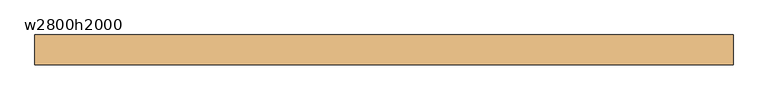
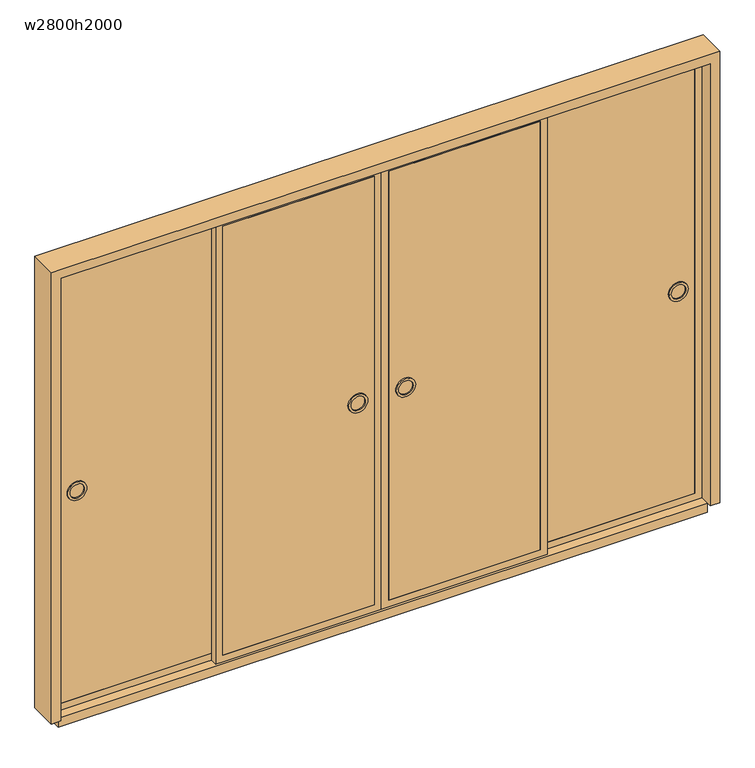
"""IFC4 building model written with IfcOpenShell, lengths in millimetres: door geometry, 引違い 4 枚 2 溝_襖 : w2800h2000."""

from ifc_helpers import new_model, si_unit, point, frame, frame_2d, origin, place, context, project, spatial, polyline, circle_curve, trimmed, segment, composite_curve, outline, extrude, source, transform, mapped, element, save
from ifc_brep_helpers import plane_surface, cylinder_surface, revolved_surface, advanced_brep


def w2800h2000_670b855b(model_context):
    return source(origin(), model_context, "Body", "SolidModel", [
        advanced_brep(
        [(54.464496, -35.0, 950.0), (134.464496, -35.0, 950.0), (124.464496, -35.0, 950.0), (64.464496, -35.0, 950.0), (54.464496, 5.0, 950.0), (134.464496, 5.0, 950.0), (64.464496, 5.0, 950.0), (124.464496, 5.0, 950.0), (124.464496, -30.0, 950.0), (64.464496, -30.0, 950.0), (124.464496, 0.0, 950.0), (64.464496, 0.0, 950.0)],
        [
            (0, 1, circle_curve(frame((94.464496, -35.0, 950.0), z_axis=(0.0, -1.0, 0.0), x_axis=(1.0, 0.0, 0.0)), 40.0)),
            (1, 0, circle_curve(frame((94.464496, -35.0, 950.0), z_axis=(0.0, -1.0, 0.0), x_axis=(1.0, 0.0, 0.0)), 40.0)),
            (2, 3, circle_curve(frame((94.464496, -35.0, 950.0), z_axis=(0.0, 1.0, 0.0), x_axis=(-1.0, 0.0, 0.0)), 30.0)),
            (3, 2, circle_curve(frame((94.464496, -35.0, 950.0), z_axis=(0.0, 1.0, 0.0), x_axis=(-1.0, 0.0, 0.0)), 30.0)),
            (4, 5, circle_curve(frame((94.464496, 5.0, 950.0), z_axis=(0.0, 1.0, 0.0), x_axis=(1.0, 0.0, 0.0)), 40.0)),
            (5, 4, circle_curve(frame((94.464496, 5.0, 950.0), z_axis=(0.0, 1.0, 0.0), x_axis=(1.0, 0.0, 0.0)), 40.0)),
            (6, 7, circle_curve(frame((94.464496, 5.0, 950.0), z_axis=(0.0, -1.0, 0.0), x_axis=(-1.0, 0.0, 0.0)), 30.0)),
            (7, 6, circle_curve(frame((94.464496, 5.0, 950.0), z_axis=(0.0, -1.0, 0.0), x_axis=(-1.0, 0.0, 0.0)), 30.0)),
            (0, 4),
            (5, 1),
            (8, 9, circle_curve(frame((94.464496, -30.0, 950.0), z_axis=(0.0, -1.0, 0.0), x_axis=(-1.0, 0.0, 0.0)), 30.0)),
            (9, 8, circle_curve(frame((94.464496, -30.0, 950.0), z_axis=(0.0, -1.0, 0.0), x_axis=(-1.0, 0.0, 0.0)), 30.0)),
            (9, 3),
            (2, 8),
            (10, 11, circle_curve(frame((94.464496, 0.0, 950.0), z_axis=(0.0, 1.0, 0.0), x_axis=(-1.0, 0.0, 0.0)), 30.0)),
            (11, 10, circle_curve(frame((94.464496, 0.0, 950.0), z_axis=(0.0, 1.0, 0.0), x_axis=(-1.0, 0.0, 0.0)), 30.0)),
            (10, 7),
            (6, 11),
        ],
        [
            plane_surface(frame((134.464496, -35.0, 950.0), z_axis=(0.0, -1.0, 0.0), x_axis=(0.0, 0.0, 1.0))),
            plane_surface(frame((134.464496, 5.0, 950.0), z_axis=(0.0, 1.0, 0.0), x_axis=(0.0, 0.0, -1.0))),
            cylinder_surface(frame((94.464496, 5.0, 950.0), z_axis=(0.0, -1.0, 0.0), x_axis=(1.0, 0.0, 0.0)), 40.0),
            plane_surface(frame((64.464496, -30.0, 950.0), z_axis=(0.0, -1.0, 0.0), x_axis=(0.0, 0.0, 1.0))),
            revolved_surface(polyline([(64.464496, -30.0, 950.0), (64.464496, -35.0, 950.0)]), (94.464496, -35.0, 950.0), (0.0, 1.0, 0.0)),
            plane_surface(frame((64.464496, 0.0, 950.0), z_axis=(0.0, 1.0, 0.0), x_axis=(0.0, 0.0, -1.0))),
            revolved_surface(polyline([(64.464496, 5.0, 950.0), (64.464496, 0.0, 950.0)]), (94.464496, 0.0, 950.0), (0.0, 1.0, 0.0)),
        ],
        [
            (0, [[1, 2], [3, 4]]),
            (1, [[5, 6], [7, 8]]),
            (2, [[-1, 9, -6, 10]]),
            (2, [[-2, -10, -5, -9]]),
            (3, [[11, 12]]),
            (4, [[-12, 13, -3, 14]]),
            (4, [[-11, -14, -4, -13]]),
            (5, [[15, 16]]),
            (6, [[-15, 17, -7, 18]]),
            (6, [[-16, -18, -8, -17]]),
        ],
    ),
        extrude(outline(polyline([(1930.0, 659.464496), (1930.0, 24.464496), (30.0, 24.464496), (30.0, 659.464496), (1930.0, 659.464496)]), holes=[composite_curve([segment(trimmed(circle_curve(frame_2d((950.0, 94.464496)), 40.0), [point((950.0, 54.464496))], [point((950.0, 134.464496))], True, "CARTESIAN"), True, "CONTINUOUS"), segment(trimmed(circle_curve(frame_2d((950.0, 94.464496)), 40.0), [point((950.0, 134.464496))], [point((950.0, 54.464496))], True, "CARTESIAN"), True, "CONTINUOUS")], self_intersect=False)]), frame((0.0, -30.0, 0.0), z_axis=(0.0, 1.0, 0.0), x_axis=(0.0, 0.0, 1.0)), (0.0, 0.0, 1.0), 30.0),
        extrude(outline(polyline([(1960.0, 689.464496), (1960.0, -5.535504), (0.0, -5.535504), (0.0, 689.464496), (1960.0, 689.464496)]), holes=[polyline([(30.0, 24.464496), (1930.0, 24.464496), (1930.0, 659.464496), (30.0, 659.464496), (30.0, 24.464496)])]), frame((0.0, -30.0, 0.0), z_axis=(0.0, 1.0, 0.0), x_axis=(0.0, 0.0, 1.0)), (0.0, 0.0, 1.0), 30.0),
        advanced_brep(
        [(1294.464496, -5.0, 950.0), (1214.464496, -5.0, 950.0), (1224.464496, -5.0, 950.0), (1284.464496, -5.0, 950.0), (1294.464496, 35.0, 950.0), (1214.464496, 35.0, 950.0), (1284.464496, 35.0, 950.0), (1224.464496, 35.0, 950.0), (1224.464496, 0.0, 950.0), (1284.464496, 0.0, 950.0), (1224.464496, 30.0, 950.0), (1284.464496, 30.0, 950.0)],
        [
            (0, 1, circle_curve(frame((1254.464496, -5.0, 950.0), z_axis=(0.0, -1.0, 0.0), x_axis=(-1.0, 0.0, 0.0)), 40.0)),
            (1, 0, circle_curve(frame((1254.464496, -5.0, 950.0), z_axis=(0.0, -1.0, 0.0), x_axis=(-1.0, 0.0, 0.0)), 40.0)),
            (2, 3, circle_curve(frame((1254.464496, -5.0, 950.0), z_axis=(0.0, 1.0, 0.0), x_axis=(1.0, 0.0, 0.0)), 30.0)),
            (3, 2, circle_curve(frame((1254.464496, -5.0, 950.0), z_axis=(0.0, 1.0, 0.0), x_axis=(1.0, 0.0, 0.0)), 30.0)),
            (4, 5, circle_curve(frame((1254.464496, 35.0, 950.0), z_axis=(0.0, 1.0, 0.0), x_axis=(-1.0, 0.0, 0.0)), 40.0)),
            (5, 4, circle_curve(frame((1254.464496, 35.0, 950.0), z_axis=(0.0, 1.0, 0.0), x_axis=(-1.0, 0.0, 0.0)), 40.0)),
            (6, 7, circle_curve(frame((1254.464496, 35.0, 950.0), z_axis=(0.0, -1.0, 0.0), x_axis=(1.0, 0.0, 0.0)), 30.0)),
            (7, 6, circle_curve(frame((1254.464496, 35.0, 950.0), z_axis=(0.0, -1.0, 0.0), x_axis=(1.0, 0.0, 0.0)), 30.0)),
            (1, 5),
            (4, 0),
            (8, 9, circle_curve(frame((1254.464496, 0.0, 950.0), z_axis=(0.0, -1.0, 0.0), x_axis=(1.0, 0.0, 0.0)), 30.0)),
            (9, 8, circle_curve(frame((1254.464496, 0.0, 950.0), z_axis=(0.0, -1.0, 0.0), x_axis=(1.0, 0.0, 0.0)), 30.0)),
            (8, 2),
            (3, 9),
            (10, 11, circle_curve(frame((1254.464496, 30.0, 950.0), z_axis=(0.0, 1.0, 0.0), x_axis=(1.0, 0.0, 0.0)), 30.0)),
            (11, 10, circle_curve(frame((1254.464496, 30.0, 950.0), z_axis=(0.0, 1.0, 0.0), x_axis=(1.0, 0.0, 0.0)), 30.0)),
            (11, 6),
            (7, 10),
        ],
        [
            plane_surface(frame((1214.464496, -5.0, 950.0), z_axis=(0.0, -1.0, 0.0), x_axis=(0.0, 0.0, 1.0))),
            plane_surface(frame((1214.464496, 35.0, 950.0), z_axis=(0.0, 1.0, 0.0), x_axis=(0.0, 0.0, -1.0))),
            cylinder_surface(frame((1254.464496, 35.0, 950.0), z_axis=(0.0, -1.0, 0.0), x_axis=(-1.0, 0.0, 0.0)), 40.0),
            plane_surface(frame((1284.464496, 0.0, 950.0), z_axis=(0.0, -1.0, 0.0), x_axis=(0.0, 0.0, 1.0))),
            revolved_surface(polyline([(1284.464496, 0.0, 950.0), (1284.464496, -5.0, 950.0)]), (1254.464496, -5.0, 950.0), (0.0, 1.0, 0.0)),
            plane_surface(frame((1284.464496, 30.0, 950.0), z_axis=(0.0, 1.0, 0.0), x_axis=(0.0, 0.0, -1.0))),
            revolved_surface(polyline([(1284.464496, 35.0, 950.0), (1284.464496, 30.0, 950.0)]), (1254.464496, 30.0, 950.0), (0.0, 1.0, 0.0)),
        ],
        [
            (0, [[1, 2], [3, 4]]),
            (1, [[5, 6], [7, 8]]),
            (2, [[9, -5, 10, -2]]),
            (2, [[-10, -6, -9, -1]]),
            (3, [[11, 12]]),
            (4, [[13, -4, 14, -11]]),
            (4, [[-14, -3, -13, -12]]),
            (5, [[15, 16]]),
            (6, [[17, -8, 18, -16]]),
            (6, [[-18, -7, -17, -15]]),
        ],
    ),
        extrude(outline(polyline([(1930.0, 689.464496), (30.0, 689.464496), (30.0, 1324.464496), (1930.0, 1324.464496), (1930.0, 689.464496)]), holes=[composite_curve([segment(trimmed(circle_curve(frame_2d((950.0, 1254.464496)), 40.0), [point((950.0, 1294.464496))], [point((950.0, 1214.464496))], True, "CARTESIAN"), True, "CONTINUOUS"), segment(trimmed(circle_curve(frame_2d((950.0, 1254.464496)), 40.0), [point((950.0, 1214.464496))], [point((950.0, 1294.464496))], True, "CARTESIAN"), True, "CONTINUOUS")], self_intersect=False)]), frame((0.0, 0.0, 0.0), z_axis=(0.0, 1.0, 0.0), x_axis=(0.0, 0.0, 1.0)), (0.0, 0.0, 1.0), 30.0),
        extrude(outline(polyline([(1960.0, 659.464496), (0.0, 659.464496), (0.0, 1354.464496), (1960.0, 1354.464496), (1960.0, 659.464496)]), holes=[polyline([(30.0, 1324.464496), (30.0, 689.464496), (1930.0, 689.464496), (1930.0, 1324.464496), (30.0, 1324.464496)])]), frame((0.0, 0.0, 0.0), z_axis=(0.0, 1.0, 0.0), x_axis=(0.0, 0.0, 1.0)), (0.0, 0.0, 1.0), 30.0),
        advanced_brep(
        [(-65.535504, -35.0, 950.0), (-145.535504, -35.0, 950.0), (-135.535504, -35.0, 950.0), (-75.535504, -35.0, 950.0), (-65.535504, 5.0, 950.0), (-145.535504, 5.0, 950.0), (-75.535504, 5.0, 950.0), (-135.535504, 5.0, 950.0), (-135.535504, -30.0, 950.0), (-75.535504, -30.0, 950.0), (-135.535504, 0.0, 950.0), (-75.535504, 0.0, 950.0)],
        [
            (0, 1, circle_curve(frame((-105.535504, -35.0, 950.0), z_axis=(0.0, -1.0, 0.0), x_axis=(-1.0, 0.0, 0.0)), 40.0)),
            (1, 0, circle_curve(frame((-105.535504, -35.0, 950.0), z_axis=(0.0, -1.0, 0.0), x_axis=(-1.0, 0.0, 0.0)), 40.0)),
            (2, 3, circle_curve(frame((-105.535504, -35.0, 950.0), z_axis=(0.0, 1.0, 0.0), x_axis=(1.0, 0.0, 0.0)), 30.0)),
            (3, 2, circle_curve(frame((-105.535504, -35.0, 950.0), z_axis=(0.0, 1.0, 0.0), x_axis=(1.0, 0.0, 0.0)), 30.0)),
            (4, 5, circle_curve(frame((-105.535504, 5.0, 950.0), z_axis=(0.0, 1.0, 0.0), x_axis=(-1.0, 0.0, 0.0)), 40.0)),
            (5, 4, circle_curve(frame((-105.535504, 5.0, 950.0), z_axis=(0.0, 1.0, 0.0), x_axis=(-1.0, 0.0, 0.0)), 40.0)),
            (6, 7, circle_curve(frame((-105.535504, 5.0, 950.0), z_axis=(0.0, -1.0, 0.0), x_axis=(1.0, 0.0, 0.0)), 30.0)),
            (7, 6, circle_curve(frame((-105.535504, 5.0, 950.0), z_axis=(0.0, -1.0, 0.0), x_axis=(1.0, 0.0, 0.0)), 30.0)),
            (1, 5),
            (4, 0),
            (8, 9, circle_curve(frame((-105.535504, -30.0, 950.0), z_axis=(0.0, -1.0, 0.0), x_axis=(1.0, 0.0, 0.0)), 30.0)),
            (9, 8, circle_curve(frame((-105.535504, -30.0, 950.0), z_axis=(0.0, -1.0, 0.0), x_axis=(1.0, 0.0, 0.0)), 30.0)),
            (8, 2),
            (3, 9),
            (10, 11, circle_curve(frame((-105.535504, 0.0, 950.0), z_axis=(0.0, 1.0, 0.0), x_axis=(1.0, 0.0, 0.0)), 30.0)),
            (11, 10, circle_curve(frame((-105.535504, 0.0, 950.0), z_axis=(0.0, 1.0, 0.0), x_axis=(1.0, 0.0, 0.0)), 30.0)),
            (11, 6),
            (7, 10),
        ],
        [
            plane_surface(frame((-145.535504, -35.0, 950.0), z_axis=(0.0, -1.0, 0.0), x_axis=(0.0, 0.0, 1.0))),
            plane_surface(frame((-145.535504, 5.0, 950.0), z_axis=(0.0, 1.0, 0.0), x_axis=(0.0, 0.0, -1.0))),
            cylinder_surface(frame((-105.535504, 5.0, 950.0), z_axis=(0.0, -1.0, 0.0), x_axis=(-1.0, 0.0, 0.0)), 40.0),
            plane_surface(frame((-75.535504, -30.0, 950.0), z_axis=(0.0, -1.0, 0.0), x_axis=(0.0, 0.0, 1.0))),
            revolved_surface(polyline([(-75.535504, -30.0, 950.0), (-75.535504, -35.0, 950.0)]), (-105.535504, -35.0, 950.0), (0.0, 1.0, 0.0)),
            plane_surface(frame((-75.535504, 0.0, 950.0), z_axis=(0.0, 1.0, 0.0), x_axis=(0.0, 0.0, -1.0))),
            revolved_surface(polyline([(-75.535504, 5.0, 950.0), (-75.535504, 0.0, 950.0)]), (-105.535504, 0.0, 950.0), (0.0, 1.0, 0.0)),
        ],
        [
            (0, [[1, 2], [3, 4]]),
            (1, [[5, 6], [7, 8]]),
            (2, [[9, -5, 10, -2]]),
            (2, [[-10, -6, -9, -1]]),
            (3, [[11, 12]]),
            (4, [[13, -4, 14, -11]]),
            (4, [[-14, -3, -13, -12]]),
            (5, [[15, 16]]),
            (6, [[17, -8, 18, -16]]),
            (6, [[-18, -7, -17, -15]]),
        ],
    ),
        extrude(outline(polyline([(1930.0, -670.535504), (30.0, -670.535504), (30.0, -35.535504), (1930.0, -35.535504), (1930.0, -670.535504)]), holes=[composite_curve([segment(trimmed(circle_curve(frame_2d((950.0, -105.535504)), 40.0), [point((950.0, -65.535504))], [point((950.0, -145.535504))], True, "CARTESIAN"), True, "CONTINUOUS"), segment(trimmed(circle_curve(frame_2d((950.0, -105.535504)), 40.0), [point((950.0, -145.535504))], [point((950.0, -65.535504))], True, "CARTESIAN"), True, "CONTINUOUS")], self_intersect=False)]), frame((0.0, -30.0, 0.0), z_axis=(0.0, 1.0, 0.0), x_axis=(0.0, 0.0, 1.0)), (0.0, 0.0, 1.0), 30.0),
        extrude(outline(polyline([(1960.0, -700.535504), (0.0, -700.535504), (0.0, -5.535504), (1960.0, -5.535504), (1960.0, -700.535504)]), holes=[polyline([(30.0, -35.535504), (30.0, -670.535504), (1930.0, -670.535504), (1930.0, -35.535504), (30.0, -35.535504)])]), frame((0.0, -30.0, 0.0), z_axis=(0.0, 1.0, 0.0), x_axis=(0.0, 0.0, 1.0)), (0.0, 0.0, 1.0), 30.0),
        advanced_brep(
        [(-1305.535504, -5.0, 950.0), (-1225.535504, -5.0, 950.0), (-1235.535504, -5.0, 950.0), (-1295.535504, -5.0, 950.0), (-1305.535504, 35.0, 950.0), (-1225.535504, 35.0, 950.0), (-1295.535504, 35.0, 950.0), (-1235.535504, 35.0, 950.0), (-1235.535504, 0.0, 950.0), (-1295.535504, 0.0, 950.0), (-1235.535504, 30.0, 950.0), (-1295.535504, 30.0, 950.0)],
        [
            (0, 1, circle_curve(frame((-1265.535504, -5.0, 950.0), z_axis=(0.0, -1.0, 0.0), x_axis=(1.0, 0.0, 0.0)), 40.0)),
            (1, 0, circle_curve(frame((-1265.535504, -5.0, 950.0), z_axis=(0.0, -1.0, 0.0), x_axis=(1.0, 0.0, 0.0)), 40.0)),
            (2, 3, circle_curve(frame((-1265.535504, -5.0, 950.0), z_axis=(0.0, 1.0, 0.0), x_axis=(-1.0, 0.0, 0.0)), 30.0)),
            (3, 2, circle_curve(frame((-1265.535504, -5.0, 950.0), z_axis=(0.0, 1.0, 0.0), x_axis=(-1.0, 0.0, 0.0)), 30.0)),
            (4, 5, circle_curve(frame((-1265.535504, 35.0, 950.0), z_axis=(0.0, 1.0, 0.0), x_axis=(1.0, 0.0, 0.0)), 40.0)),
            (5, 4, circle_curve(frame((-1265.535504, 35.0, 950.0), z_axis=(0.0, 1.0, 0.0), x_axis=(1.0, 0.0, 0.0)), 40.0)),
            (6, 7, circle_curve(frame((-1265.535504, 35.0, 950.0), z_axis=(0.0, -1.0, 0.0), x_axis=(-1.0, 0.0, 0.0)), 30.0)),
            (7, 6, circle_curve(frame((-1265.535504, 35.0, 950.0), z_axis=(0.0, -1.0, 0.0), x_axis=(-1.0, 0.0, 0.0)), 30.0)),
            (0, 4),
            (5, 1),
            (8, 9, circle_curve(frame((-1265.535504, 0.0, 950.0), z_axis=(0.0, -1.0, 0.0), x_axis=(-1.0, 0.0, 0.0)), 30.0)),
            (9, 8, circle_curve(frame((-1265.535504, 0.0, 950.0), z_axis=(0.0, -1.0, 0.0), x_axis=(-1.0, 0.0, 0.0)), 30.0)),
            (9, 3),
            (2, 8),
            (10, 11, circle_curve(frame((-1265.535504, 30.0, 950.0), z_axis=(0.0, 1.0, 0.0), x_axis=(-1.0, 0.0, 0.0)), 30.0)),
            (11, 10, circle_curve(frame((-1265.535504, 30.0, 950.0), z_axis=(0.0, 1.0, 0.0), x_axis=(-1.0, 0.0, 0.0)), 30.0)),
            (10, 7),
            (6, 11),
        ],
        [
            plane_surface(frame((-1225.535504, -5.0, 950.0), z_axis=(0.0, -1.0, 0.0), x_axis=(0.0, 0.0, 1.0))),
            plane_surface(frame((-1225.535504, 35.0, 950.0), z_axis=(0.0, 1.0, 0.0), x_axis=(0.0, 0.0, -1.0))),
            cylinder_surface(frame((-1265.535504, 35.0, 950.0), z_axis=(0.0, -1.0, 0.0), x_axis=(1.0, 0.0, 0.0)), 40.0),
            plane_surface(frame((-1295.535504, 0.0, 950.0), z_axis=(0.0, -1.0, 0.0), x_axis=(0.0, 0.0, 1.0))),
            revolved_surface(polyline([(-1295.535504, 0.0, 950.0), (-1295.535504, -5.0, 950.0)]), (-1265.535504, -5.0, 950.0), (0.0, 1.0, 0.0)),
            plane_surface(frame((-1295.535504, 30.0, 950.0), z_axis=(0.0, 1.0, 0.0), x_axis=(0.0, 0.0, -1.0))),
            revolved_surface(polyline([(-1295.535504, 35.0, 950.0), (-1295.535504, 30.0, 950.0)]), (-1265.535504, 30.0, 950.0), (0.0, 1.0, 0.0)),
        ],
        [
            (0, [[1, 2], [3, 4]]),
            (1, [[5, 6], [7, 8]]),
            (2, [[-1, 9, -6, 10]]),
            (2, [[-2, -10, -5, -9]]),
            (3, [[11, 12]]),
            (4, [[-12, 13, -3, 14]]),
            (4, [[-11, -14, -4, -13]]),
            (5, [[15, 16]]),
            (6, [[-15, 17, -7, 18]]),
            (6, [[-16, -18, -8, -17]]),
        ],
    ),
        extrude(outline(polyline([(1930.0, -700.535504), (1930.0, -1335.535504), (30.0, -1335.535504), (30.0, -700.535504), (1930.0, -700.535504)]), holes=[composite_curve([segment(trimmed(circle_curve(frame_2d((950.0, -1265.535504)), 40.0), [point((950.0, -1305.535504))], [point((950.0, -1225.535504))], True, "CARTESIAN"), True, "CONTINUOUS"), segment(trimmed(circle_curve(frame_2d((950.0, -1265.535504)), 40.0), [point((950.0, -1225.535504))], [point((950.0, -1305.535504))], True, "CARTESIAN"), True, "CONTINUOUS")], self_intersect=False)]), frame((0.0, 0.0, 0.0), z_axis=(0.0, 1.0, 0.0), x_axis=(0.0, 0.0, 1.0)), (0.0, 0.0, 1.0), 30.0),
        extrude(outline(polyline([(1960.0, -670.535504), (1960.0, -1365.535504), (0.0, -1365.535504), (0.0, -670.535504), (1960.0, -670.535504)]), holes=[polyline([(30.0, -1335.535504), (1930.0, -1335.535504), (1930.0, -700.535504), (30.0, -700.535504), (30.0, -1335.535504)])]), frame((0.0, 0.0, 0.0), z_axis=(0.0, 1.0, 0.0), x_axis=(0.0, 0.0, 1.0)), (0.0, 0.0, 1.0), 30.0),
        extrude(outline(polyline([(1354.464496, 40.0), (1354.464496, -40.0), (-1365.535504, -40.0), (-1365.535504, 40.0), (1354.464496, 40.0)])), frame((0.0, 0.0, -40.0), z_axis=(0.0, 0.0, 1.0), x_axis=(1.0, 0.0, 0.0)), (0.0, 0.0, 1.0), 40.0),
        extrude(outline(polyline([(2000.0, 1394.464496), (2000.0, -1405.535504), (0.0, -1405.535504), (0.0, -1365.535504), (1960.0, -1365.535504), (1960.0, 1354.464496), (0.0, 1354.464496), (0.0, 1394.464496), (2000.0, 1394.464496)])), frame((0.0, -60.0, 0.0), z_axis=(0.0, 1.0, 0.0), x_axis=(0.0, 0.0, 1.0)), (0.0, 0.0, 1.0), 120.0),
    ])


if __name__ == "__main__":
    model = new_model("IFC4")
    model_context = context("Model", 3, world=origin())
    ifc_project = project(units=[si_unit("LENGTHUNIT", "METRE", prefix="MILLI")], contexts=[model_context])
    site = spatial("IfcSite", under=ifc_project)
    building = spatial("IfcBuilding", under=site)
    placement = place(None, origin())
    w2800h2000_shape = w2800h2000_670b855b(model_context)
    element("IfcDoor", 1, ObjectType="引違い 4 枚 2 溝_襖 : w2800h2000", at=placement, inside=building, context=model_context, shape_type="MappedRepresentation", body=[
        mapped(w2800h2000_shape, transform((0.0, 0.0, 0.0), x_axis=(1.0, 0.0, 0.0), y_axis=(0.0, 1.0, 0.0), z_axis=(0.0, 0.0, 1.0))),
    ])
    save(model, "model.ifc")
